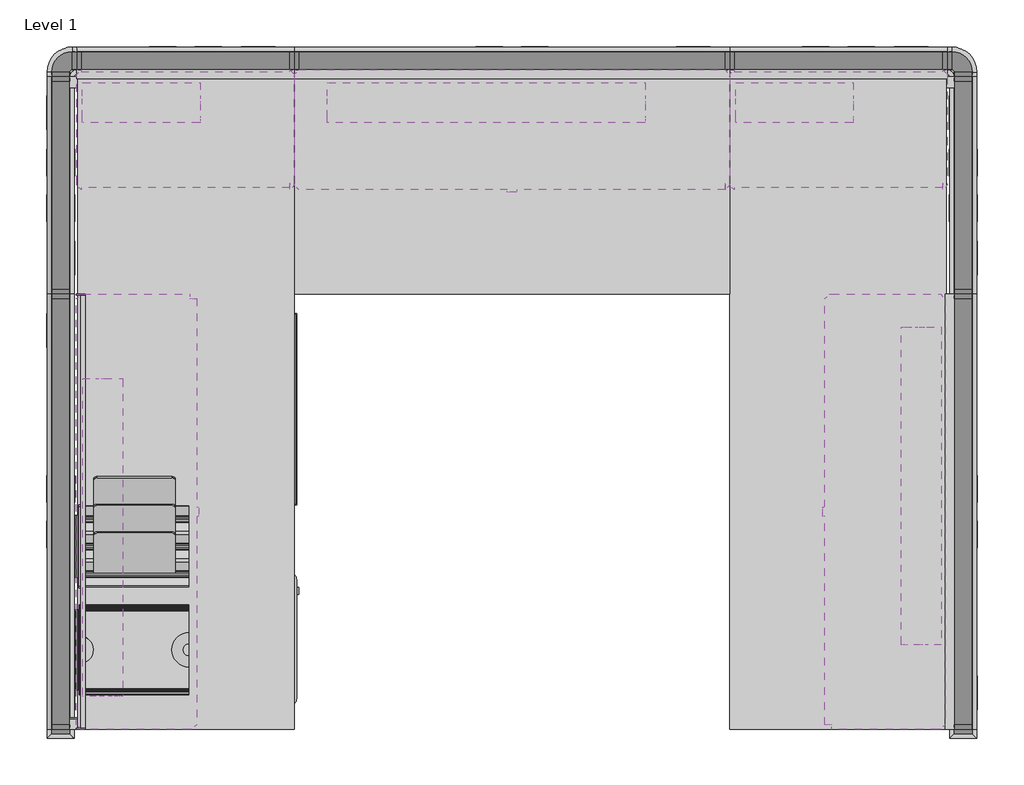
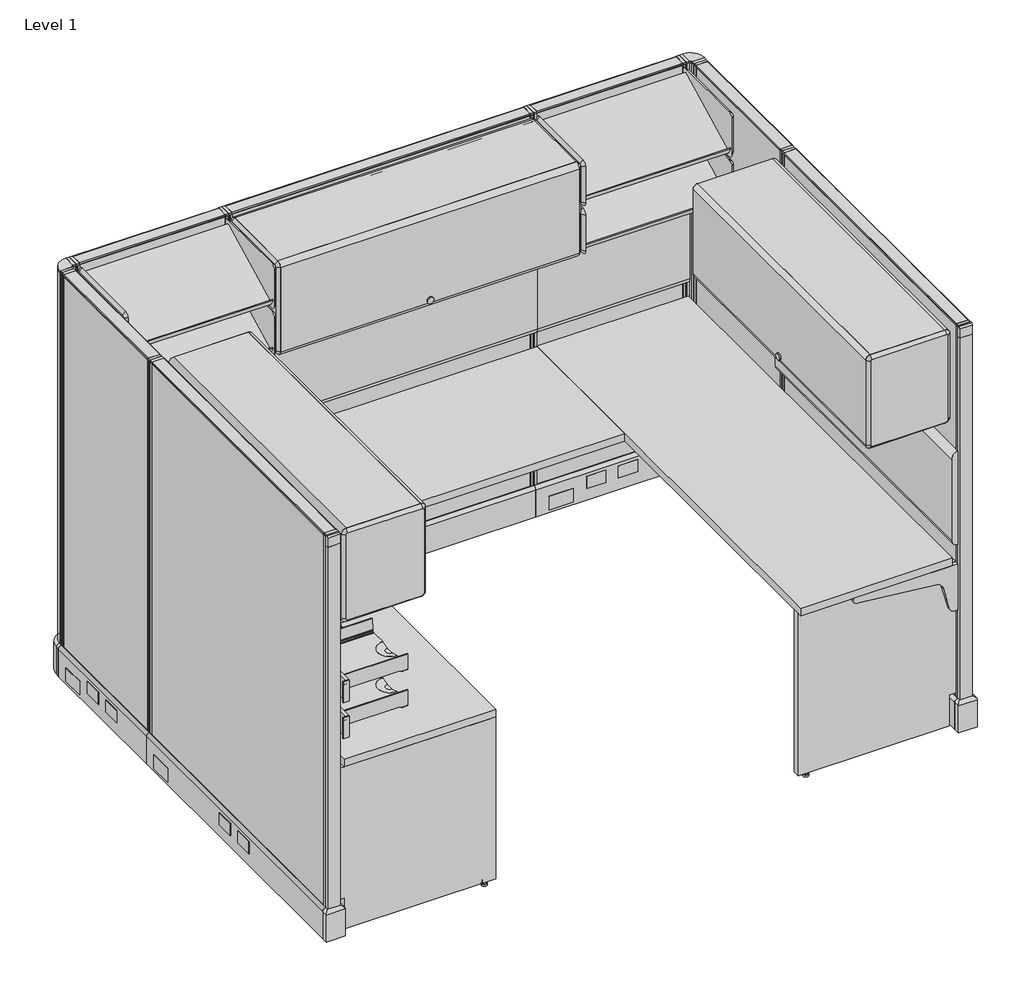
# One storey, incomplete: 34 furniture elements, 5 light fixtures.
"""IFC4 building model written with IfcOpenShell, lengths in millimetres."""

from ifc_helpers import new_model, si_unit, origin, place, context, project, spatial, transform, mapped, element, save
from components import furniture_84c54a78, furniture_98713a82, furniture_f221023d, furniture_083a197f, furniture_f3dbc57d, furniture_1f279dc2, furniture_061b7ed1, furniture_cb78dd66, furniture_cffa716f, furniture_8ad8b8e1, furniture_d54c757f, furniture_baef4f76, furniture_a2665887, furniture_75fc3fe0, furniture_aef38361, furniture_bda8002d, furniture_b7c7402d, furniture_5c2546f9, furniture_ba981915, light_fixture_23ee1715, light_fixture_049582d0

model = new_model("IFC4")

# Units and contexts
model_context = context("Model", 3, world=origin())
ifc_project = project(units=[si_unit("LENGTHUNIT", "METRE", prefix="MILLI")], contexts=[model_context])

# Site, building, storey
site = spatial("IfcSite", under=ifc_project)
building = spatial("IfcBuilding", under=site)
storey = spatial("IfcBuildingStorey", under=building, Name="Level 1", Elevation=0.0)

# Furniture
placement = place(None, origin())
furniture_shape = furniture_84c54a78(model_context)
element("IfcFurniture", 1, ObjectType="HermanMiller_QuadrantFiling_G5111_MobilePedestal : 21-1/2\"H x 20\"D x 15\"W BF", at=placement, inside=storey, context=model_context, shape_type="MappedRepresentation", body=[
    mapped(furniture_shape, transform((352.3201808, -1576.1677446, 0.0), x_axis=(-3.6732051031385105e-06, 0.9999999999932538, 0.0), y_axis=(-0.9999999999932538, -3.6732051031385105e-06, 0.0), z_axis=(0.0, 0.0, 1.0))),
])
furniture_2_shape = furniture_98713a82(model_context)
element("IfcFurniture", 2, ObjectType="HermanMiller_ActionOffice_A1110_Hard-SurfacedPanelStandardBase : 67\"H x 24\"W-G", at=placement, inside=storey, context=model_context, shape_type="MappedRepresentation", body=[
    mapped(furniture_2_shape, transform((2133.6, 44.4497434, 0.0), x_axis=(1.0, 0.0, 0.0), y_axis=(0.0, 1.0, 0.0), z_axis=(0.0, 0.0, 1.0))),
])
element("IfcFurniture", 3, ObjectType="HermanMiller_ActionOffice_A1110_Hard-SurfacedPanelStandardBase : 67\"H x 24\"W-G", at=placement, inside=storey, context=model_context, shape_type="MappedRepresentation", body=[
    mapped(furniture_2_shape, transform((304.8, 44.4497434, 0.0), x_axis=(1.0, 0.0, 0.0), y_axis=(0.0, 1.0, 0.0), z_axis=(0.0, 0.0, 1.0))),
])
element("IfcFurniture", 4, ObjectType="HermanMiller_ActionOffice_A1110_Hard-SurfacedPanelStandardBase : 67\"H x 24\"W-G", at=placement, inside=storey, context=model_context, shape_type="MappedRepresentation", body=[
    mapped(furniture_2_shape, transform((2482.8533588, -304.8005365, 0.0), x_axis=(1.1019615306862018e-05, -0.9999999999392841, 0.0), y_axis=(0.9999999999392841, 1.1019615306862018e-05, 0.0), z_axis=(0.0, 0.0, 1.0))),
])
element("IfcFurniture", 5, ObjectType="HermanMiller_ActionOffice_A1110_Hard-SurfacedPanelStandardBase : 67\"H x 24\"W-G", at=placement, inside=storey, context=model_context, shape_type="MappedRepresentation", body=[
    mapped(furniture_2_shape, transform((-44.4511196, -304.8001633, 0.0), x_axis=(-3.6732051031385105e-06, 0.9999999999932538, 0.0), y_axis=(-0.9999999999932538, -3.6732051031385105e-06, 0.0), z_axis=(0.0, 0.0, 1.0))),
])
furniture_3_shape = furniture_f221023d(model_context)
element("IfcFurniture", 6, ObjectType="HermanMiller_ActionOffice_A1110_Hard-SurfacedPanelStandardBase : 67\"H x 48\"W-G", at=placement, inside=storey, context=model_context, shape_type="MappedRepresentation", body=[
    mapped(furniture_3_shape, transform((1219.2, 44.4497434, 0.0), x_axis=(1.0, 0.0, 0.0), y_axis=(0.0, 1.0, 0.0), z_axis=(0.0, 0.0, 1.0))),
])
element("IfcFurniture", 7, ObjectType="HermanMiller_ActionOffice_A1110_Hard-SurfacedPanelStandardBase : 67\"H x 48\"W-G", at=placement, inside=storey, context=model_context, shape_type="MappedRepresentation", body=[
    mapped(furniture_3_shape, transform((-44.4522392, -1219.2001633, 0.0), x_axis=(-3.6732051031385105e-06, 0.9999999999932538, 0.0), y_axis=(-0.9999999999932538, -3.6732051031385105e-06, 0.0), z_axis=(0.0, 0.0, 1.0))),
])
element("IfcFurniture", 8, ObjectType="HermanMiller_ActionOffice_A1110_Hard-SurfacedPanelStandardBase : 67\"H x 48\"W-G", at=placement, inside=storey, context=model_context, shape_type="MappedRepresentation", body=[
    mapped(furniture_3_shape, transform((2482.8567176, -1219.2005364, 0.0), x_axis=(1.1019615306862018e-05, -0.9999999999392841, 0.0), y_axis=(0.9999999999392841, 1.1019615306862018e-05, 0.0), z_axis=(0.0, 0.0, 1.0))),
])
furniture_4_shape = furniture_083a197f(model_context)
element("IfcFurniture", 9, ObjectType="HermanMiller_ActionOffice_A2310_Sq-EdgeRectangularWorkSurface : 24\"D x 48\"W", at=placement, inside=storey, context=model_context, shape_type="MappedRepresentation", body=[
    mapped(furniture_4_shape, transform((1219.2, -295.2752566, 0.0), x_axis=(1.0, 0.0, 0.0), y_axis=(0.0, 1.0, 0.0), z_axis=(0.0, 0.0, 1.0))),
])
furniture_5_shape = furniture_f3dbc57d(model_context)
element("IfcFurniture", 10, ObjectType="HermanMiller_ActionOffice_A2310_Sq-EdgeRectangularWorkSurface : 24\"D x 72\"W", at=placement, inside=storey, context=model_context, shape_type="MappedRepresentation", body=[
    mapped(furniture_5_shape, transform((2143.1350764, -914.4037203, 0.0), x_axis=(1.1019615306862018e-05, -0.9999999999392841, 0.0), y_axis=(0.9999999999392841, 1.1019615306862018e-05, 0.0), z_axis=(0.0, 0.0, 1.0))),
])
element("IfcFurniture", 11, ObjectType="HermanMiller_ActionOffice_A2310_Sq-EdgeRectangularWorkSurface : 24\"D x 72\"W", at=placement, inside=storey, context=model_context, shape_type="MappedRepresentation", body=[
    mapped(furniture_5_shape, transform((295.2716412, -914.399102, 0.0), x_axis=(-3.6732051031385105e-06, 0.9999999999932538, 0.0), y_axis=(-0.9999999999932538, -3.6732051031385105e-06, 0.0), z_axis=(0.0, 0.0, 1.0))),
])
furniture_6_shape = furniture_1f279dc2(model_context)
element("IfcFurniture", 12, ObjectType="HermanMiller_ActionOffice_A3352_B-StyleFlipperDoorUnit : 15 1/2\"H x 13\"D x 48\"W", at=placement, inside=storey, context=model_context, shape_type="MappedRepresentation", body=[
    mapped(furniture_6_shape, transform((1219.2, -161.9252566, 0.0), x_axis=(1.0, 0.0, 0.0), y_axis=(0.0, 1.0, 0.0), z_axis=(0.0, 0.0, 1.0))),
])
element("IfcFurniture", 13, ObjectType="HermanMiller_ActionOffice_A3352_B-StyleFlipperDoorUnit : 15 1/2\"H x 13\"D x 48\"W", at=placement, inside=storey, context=model_context, shape_type="MappedRepresentation", body=[
    mapped(furniture_6_shape, transform((2251.0817176, -1219.2022508, 0.0), x_axis=(1.1019615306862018e-05, -0.9999999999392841, 0.0), y_axis=(0.9999999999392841, 1.1019615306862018e-05, 0.0), z_axis=(0.0, 0.0, 1.0))),
])
element("IfcFurniture", 14, ObjectType="HermanMiller_ActionOffice_A3352_B-StyleFlipperDoorUnit : 15 1/2\"H x 13\"D x 48\"W", at=placement, inside=storey, context=model_context, shape_type="MappedRepresentation", body=[
    mapped(furniture_6_shape, transform((180.4748015, -1219.1995918, 0.0), x_axis=(-3.6732051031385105e-06, 0.9999999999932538, 0.0), y_axis=(-0.9999999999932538, -3.6732051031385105e-06, 0.0), z_axis=(0.0, 0.0, 1.0))),
])
furniture_7_shape = furniture_061b7ed1(model_context)
element("IfcFurniture", 15, ObjectType="HermanMiller_ActionOffice_A3410_B-StyleTackboard : 16\"H x 24\"W", at=placement, inside=storey, context=model_context, shape_type="MappedRepresentation", body=[
    mapped(furniture_7_shape, transform((2133.6, 6.3497434, 0.0), x_axis=(1.0, 0.0, 0.0), y_axis=(0.0, 1.0, 0.0), z_axis=(0.0, 0.0, 1.0))),
])
element("IfcFurniture", 16, ObjectType="HermanMiller_ActionOffice_A3410_B-StyleTackboard : 16\"H x 24\"W", at=placement, inside=storey, context=model_context, shape_type="MappedRepresentation", body=[
    mapped(furniture_7_shape, transform((304.8, 6.3497434, 0.0), x_axis=(1.0, 0.0, 0.0), y_axis=(0.0, 1.0, 0.0), z_axis=(0.0, 0.0, 1.0))),
])
furniture_8_shape = furniture_cb78dd66(model_context)
element("IfcFurniture", 17, ObjectType="HermanMiller_ActionOffice_A3410_B-StyleTackboard : 16\"H x 48\"W", at=placement, inside=storey, context=model_context, shape_type="MappedRepresentation", body=[
    mapped(furniture_8_shape, transform((1219.2, 6.3497434, 0.0), x_axis=(1.0, 0.0, 0.0), y_axis=(0.0, 1.0, 0.0), z_axis=(0.0, 0.0, 1.0))),
])
element("IfcFurniture", 18, ObjectType="HermanMiller_ActionOffice_A3410_B-StyleTackboard : 16\"H x 48\"W", at=placement, inside=storey, context=model_context, shape_type="MappedRepresentation", body=[
    mapped(furniture_8_shape, transform((2444.7567176, -1219.2003965, 0.0), x_axis=(1.1019615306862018e-05, -0.9999999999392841, 0.0), y_axis=(0.9999999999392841, 1.1019615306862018e-05, 0.0), z_axis=(0.0, 0.0, 1.0))),
])
furniture_9_shape = furniture_cffa716f(model_context)
element("IfcFurniture", 19, ObjectType="HermanMiller_ActionOffice_A3610_ToolBar : 4\"H x 48\"W", at=placement, inside=storey, context=model_context, shape_type="MappedRepresentation", body=[
    mapped(furniture_9_shape, transform((12.1998011, -1219.2002099, 0.0), x_axis=(-3.6732051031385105e-06, 0.9999999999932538, 0.0), y_axis=(-0.9999999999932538, -3.6732051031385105e-06, 0.0), z_axis=(0.0, 0.0, 1.0))),
])
furniture_10_shape = furniture_8ad8b8e1(model_context)
element("IfcFurniture", 20, ObjectType="HermanMiller_ActionOffice_A3610_ToolBar : 4\"H x 48\"W", at=placement, inside=storey, context=model_context, shape_type="MappedRepresentation", body=[
    mapped(furniture_10_shape, transform((12.1998011, -1219.2002099, 0.0), x_axis=(-3.6732051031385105e-06, 0.9999999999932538, 0.0), y_axis=(-0.9999999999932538, -3.6732051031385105e-06, 0.0), z_axis=(0.0, 0.0, 1.0))),
])
furniture_11_shape = furniture_d54c757f(model_context)
element("IfcFurniture", 21, ObjectType="HermanMiller_ThrivePortfolio_Y5010_PencilDrawer : 2\"H x 16\"D x 21\"W", at=placement, inside=storey, context=model_context, shape_type="MappedRepresentation", body=[
    mapped(furniture_11_shape, transform((409.6909012, -932.5569346, 0.0), x_axis=(-3.6732051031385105e-06, 0.9999999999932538, 0.0), y_axis=(-0.9999999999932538, -3.6732051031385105e-06, 0.0), z_axis=(0.0, 0.0, 1.0))),
])
furniture_12_shape = furniture_baef4f76(model_context)
element("IfcFurniture", 22, ObjectType="HermanMiller_ThrivePortfolio_Y7216_PaperTray : 3\"H x 12\"D x 10\"W", at=placement, inside=storey, context=model_context, shape_type="MappedRepresentation", body=[
    mapped(furniture_12_shape, transform((160.3700535, -1606.3972909, 0.0), x_axis=(-3.6732051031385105e-06, 0.9999999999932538, 0.0), y_axis=(-0.9999999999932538, -3.6732051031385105e-06, 0.0), z_axis=(0.0, 0.0, 1.0))),
])
furniture_13_shape = furniture_a2665887(model_context)
element("IfcFurniture", 23, ObjectType="HermanMiller_ThrivePortfolio_Y7216_PaperTray : 3\"H x 12\"D x 10\"W", at=placement, inside=storey, context=model_context, shape_type="MappedRepresentation", body=[
    mapped(furniture_13_shape, transform((160.3700535, -1606.3972909, 0.0), x_axis=(-3.6732051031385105e-06, 0.9999999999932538, 0.0), y_axis=(-0.9999999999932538, -3.6732051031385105e-06, 0.0), z_axis=(0.0, 0.0, 1.0))),
])
furniture_14_shape = furniture_75fc3fe0(model_context)
element("IfcFurniture", 24, ObjectType="HermanMiller_ThrivePortfolio_Y7218_DiagonalTray : 8 1/2\"H x 12\"D x 13\"W", at=placement, inside=storey, context=model_context, shape_type="MappedRepresentation", body=[
    mapped(furniture_14_shape, transform((160.3700945, -1316.3828739, 0.0), x_axis=(-3.6732051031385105e-06, 0.9999999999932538, 0.0), y_axis=(-0.9999999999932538, -3.6732051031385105e-06, 0.0), z_axis=(0.0, 0.0, 1.0))),
])
furniture_15_shape = furniture_aef38361(model_context)
element("IfcFurniture", 25, ObjectType="HermanMiller_ActionOffice_A3220_B-StyleStorageDisplay : Display 13\"D x 24\"W", at=placement, inside=storey, context=model_context, shape_type="MappedRepresentation", body=[
    mapped(furniture_15_shape, transform((428.7420045, -161.9252566, 0.0), x_axis=(1.0, 0.0, 0.0), y_axis=(0.0, 1.0, 0.0), z_axis=(0.0, 0.0, 1.0))),
])
element("IfcFurniture", 26, ObjectType="HermanMiller_ActionOffice_A3220_B-StyleStorageDisplay : Display 13\"D x 24\"W", at=placement, inside=storey, context=model_context, shape_type="MappedRepresentation", body=[
    mapped(furniture_15_shape, transform((2257.5420045, -161.9252566, 0.0), x_axis=(1.0, 0.0, 0.0), y_axis=(0.0, 1.0, 0.0), z_axis=(0.0, 0.0, 1.0))),
])
furniture_16_shape = furniture_bda8002d(model_context)
element("IfcFurniture", 27, ObjectType="HermanMiller_ActionOffice_A3220_B-StyleStorageDisplay : Display 13\"D x 24\"W", at=placement, inside=storey, context=model_context, shape_type="MappedRepresentation", body=[
    mapped(furniture_16_shape, transform((428.7420045, -161.9252566, 0.0), x_axis=(1.0, 0.0, 0.0), y_axis=(0.0, 1.0, 0.0), z_axis=(0.0, 0.0, 1.0))),
])
element("IfcFurniture", 28, ObjectType="HermanMiller_ActionOffice_A3220_B-StyleStorageDisplay : Display 13\"D x 24\"W", at=placement, inside=storey, context=model_context, shape_type="MappedRepresentation", body=[
    mapped(furniture_16_shape, transform((2257.5420045, -161.9252566, 0.0), x_axis=(1.0, 0.0, 0.0), y_axis=(0.0, 1.0, 0.0), z_axis=(0.0, 0.0, 1.0))),
])
furniture_17_shape = furniture_b7c7402d(model_context)
element("IfcFurniture", 29, ObjectType="HermanMiller_ActionOffice_A2380_WorkSuraceSupportPanelEnd : 24\"D", at=placement, inside=storey, context=model_context, shape_type="MappedRepresentation", body=[
    mapped(furniture_17_shape, transform((609.6, -1828.7979474, 0.0), x_axis=(-3.6732051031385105e-06, 0.9999999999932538, 0.0), y_axis=(-0.9999999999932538, -3.6732051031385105e-06, 0.0), z_axis=(0.0, 0.0, 1.0))),
])
element("IfcFurniture", 30, ObjectType="HermanMiller_ActionOffice_A2380_WorkSuraceSupportPanelEnd : 24\"D", at=placement, inside=storey, context=model_context, shape_type="MappedRepresentation", body=[
    mapped(furniture_17_shape, transform((1828.8, -1784.3571841, 0.0), x_axis=(1.1019615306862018e-05, -0.9999999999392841, 0.0), y_axis=(0.9999999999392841, 1.1019615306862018e-05, 0.0), z_axis=(0.0, 0.0, 1.0))),
])
furniture_18_shape = furniture_5c2546f9(model_context)
element("IfcFurniture", 31, ObjectType="HermanMiller_ActionOffice_A1271_FinishedEndStandardBase : 67\"H", at=placement, inside=storey, context=model_context, shape_type="MappedRepresentation", body=[
    mapped(furniture_18_shape, transform((2404.2669152, 156.0824987, 0.0), x_axis=(1.1019615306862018e-05, -0.9999999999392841, 0.0), y_axis=(0.9999999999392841, 1.1019615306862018e-05, 0.0), z_axis=(0.0, 0.0, 1.0))),
])
element("IfcFurniture", 32, ObjectType="HermanMiller_ActionOffice_A1271_FinishedEndStandardBase : 67\"H", at=placement, inside=storey, context=model_context, shape_type="MappedRepresentation", body=[
    mapped(furniture_18_shape, transform((4931.5669152, 156.0824987, 0.0), x_axis=(1.1019615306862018e-05, -0.9999999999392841, 0.0), y_axis=(0.9999999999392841, 1.1019615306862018e-05, 0.0), z_axis=(0.0, 0.0, 1.0))),
])
furniture_19_shape = furniture_ba981915(model_context)
element("IfcFurniture", 33, ObjectType="HermanMiller_ActionOffice_A1220_90ConnectorStandardBase : 67\"H 2-Way-Hard", at=placement, inside=storey, context=model_context, shape_type="MappedRepresentation", body=[
    mapped(furniture_19_shape, transform((-29.9361986, 38.09989, 0.0), x_axis=(-3.6732051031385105e-06, 0.9999999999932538, 0.0), y_axis=(-0.9999999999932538, -3.6732051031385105e-06, 0.0), z_axis=(0.0, 0.0, 1.0))),
])
element("IfcFurniture", 34, ObjectType="HermanMiller_ActionOffice_A1220_90ConnectorStandardBase : 67\"H 2-Way-Hard", at=placement, inside=storey, context=model_context, shape_type="MappedRepresentation", body=[
    mapped(furniture_19_shape, transform((2476.5, 29.9358021, 0.0), x_axis=(1.0, 0.0, 0.0), y_axis=(0.0, 1.0, 0.0), z_axis=(0.0, 0.0, 1.0))),
])

# Light fixtures
light_fixture_shape = light_fixture_23ee1715(model_context)
element("IfcLightFixture", 35, ObjectType="HermanMiller_SupplementalProducts_G6136_UtilityTaskLight : AO Etho Canvas 24W", at=placement, inside=storey, context=model_context, shape_type="MappedRepresentation", body=[
    mapped(light_fixture_shape, transform((181.229, -73.0252566, 0.0), x_axis=(1.0, 0.0, 0.0), y_axis=(0.0, 1.0, 0.0), z_axis=(0.0, 0.0, 1.0))),
])
element("IfcLightFixture", 36, ObjectType="HermanMiller_SupplementalProducts_G6136_UtilityTaskLight : AO Etho Canvas 24W", at=placement, inside=storey, context=model_context, shape_type="MappedRepresentation", body=[
    mapped(light_fixture_shape, transform((2010.029, -73.0252566, 0.0), x_axis=(1.0, 0.0, 0.0), y_axis=(0.0, 1.0, 0.0), z_axis=(0.0, 0.0, 1.0))),
])
light_fixture_2_shape = light_fixture_049582d0(model_context)
element("IfcLightFixture", 37, ObjectType="HermanMiller_SupplementalProducts_G6136_UtilityTaskLight : AO Etho Canvas 42W", at=placement, inside=storey, context=model_context, shape_type="MappedRepresentation", body=[
    mapped(light_fixture_2_shape, transform((1147.318, -73.0252566, 0.0), x_axis=(1.0, 0.0, 0.0), y_axis=(0.0, 1.0, 0.0), z_axis=(0.0, 0.0, 1.0))),
])
element("IfcLightFixture", 38, ObjectType="HermanMiller_SupplementalProducts_G6136_UtilityTaskLight : AO Etho Canvas 42W", at=placement, inside=storey, context=model_context, shape_type="MappedRepresentation", body=[
    mapped(light_fixture_2_shape, transform((2365.3868033, -1147.3198309, 0.0), x_axis=(1.1019615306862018e-05, -0.9999999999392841, 0.0), y_axis=(0.9999999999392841, 1.1019615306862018e-05, 0.0), z_axis=(0.0, 0.0, 1.0))),
])
element("IfcLightFixture", 39, ObjectType="HermanMiller_SupplementalProducts_G6136_UtilityTaskLight : AO Etho Canvas 42W", at=placement, inside=storey, context=model_context, shape_type="MappedRepresentation", body=[
    mapped(light_fixture_2_shape, transform((73.0233047, -1291.0819184, 0.0), x_axis=(-3.6732051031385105e-06, 0.9999999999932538, 0.0), y_axis=(-0.9999999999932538, -3.6732051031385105e-06, 0.0), z_axis=(0.0, 0.0, 1.0))),
])

save(model, "model.ifc")
